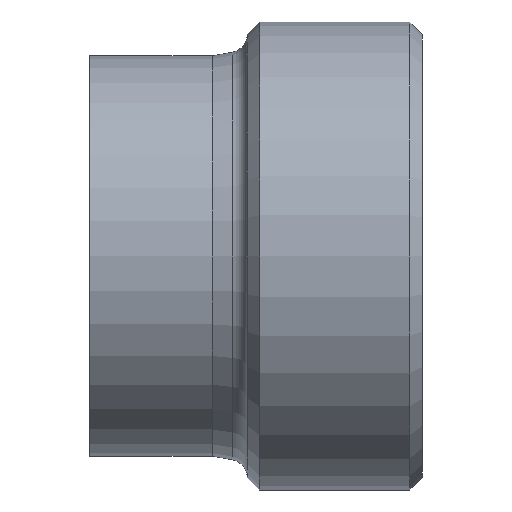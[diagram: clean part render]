
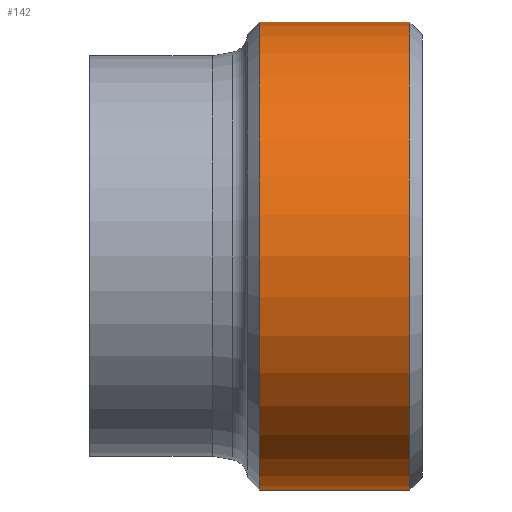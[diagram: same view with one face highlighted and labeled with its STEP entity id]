
A CAD part, front view. The second image highlights one B-rep face of the part: STEP entity #142.
In plain terms, the highlighted cylindrical face has radius 93.5 mm (diameter 187 mm), a full revolution.
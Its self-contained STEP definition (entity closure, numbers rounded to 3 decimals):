
#27=FACE_BOUND($,#58,.T.);
#39=FACE_OUTER_BOUND($,#57,.T.);
#57=EDGE_LOOP($,(#112));
#58=EDGE_LOOP($,(#113));
#71=CIRCLE($,#164,93.5);
#72=CIRCLE($,#166,93.5);
#82=VERTEX_POINT($,#241);
#83=VERTEX_POINT($,#244);
#93=EDGE_CURVE($,#82,#82,#71,.T.);
#94=EDGE_CURVE($,#83,#83,#72,.T.);
#112=ORIENTED_EDGE($,*,*,#94,.F.);
#113=ORIENTED_EDGE($,*,*,#93,.T.);
#121=CYLINDRICAL_SURFACE($,#165,93.5);
#142=ADVANCED_FACE($,(#39,#27),#121,.T.);
#164=AXIS2_PLACEMENT_3D($,#242,#204,#205);
#165=AXIS2_PLACEMENT_3D($,#243,#206,#207);
#166=AXIS2_PLACEMENT_3D($,#245,#208,#209);
#204=DIRECTION('center_axis',(1.,0.,0.));
#205=DIRECTION('ref_axis',(0.,1.,0.));
#206=DIRECTION('center_axis',(1.,0.,0.));
#207=DIRECTION('ref_axis',(0.,1.,0.));
#208=DIRECTION('center_axis',(1.,0.,0.));
#209=DIRECTION('ref_axis',(0.,1.,0.));
#241=CARTESIAN_POINT('',(68.,93.5,0.));
#242=CARTESIAN_POINT('Origin',(68.,0.,0.));
#243=CARTESIAN_POINT('Origin',(98.,0.,0.));
#244=CARTESIAN_POINT('',(128.,93.5,0.));
#245=CARTESIAN_POINT('Origin',(128.,0.,0.));
